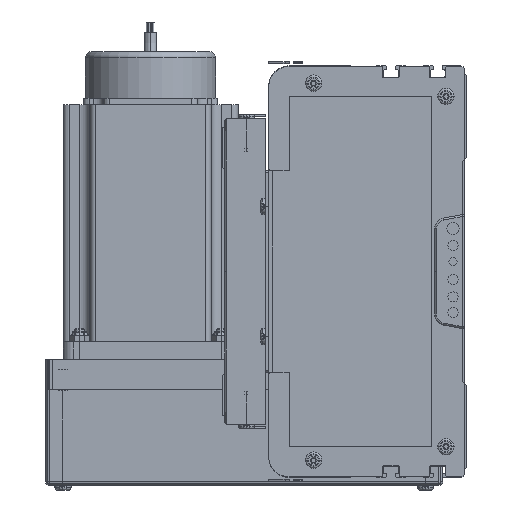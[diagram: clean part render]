
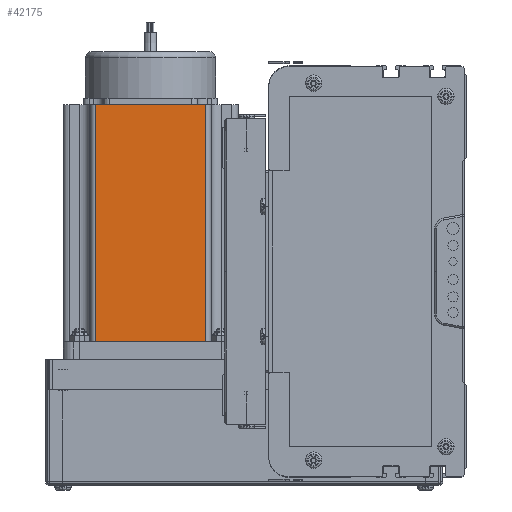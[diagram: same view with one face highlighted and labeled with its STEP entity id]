
A CAD part, left-side view. The second image highlights one B-rep face of the part: STEP entity #42175.
In plain terms, the highlighted planar face has unit normal (-1, 0, 0) as drawn and (0, -1, 0) by its records, which use the part's own axes.
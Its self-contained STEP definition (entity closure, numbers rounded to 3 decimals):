
#41703 = VERTEX_POINT ( 'NONE', #151840 ) ;
#41711 = EDGE_CURVE ( 'NONE', #41718, #41703, #152016, .T. ) ;
#41718 = VERTEX_POINT ( 'NONE', #152239 ) ;
#41738 = ORIENTED_EDGE ( 'NONE', *, *, #41711, .T. ) ;
#41786 = EDGE_CURVE ( 'NONE', #41718, #42179, #152489, .T. ) ;
#42175 = ADVANCED_FACE ( 'NONE', ( #153561 ), #153552, .F. ) ;
#42177 = VERTEX_POINT ( 'NONE', #153624 ) ;
#42179 = VERTEX_POINT ( 'NONE', #153620 ) ;
#42181 = ORIENTED_EDGE ( 'NONE', *, *, #42186, .T. ) ;
#42183 = ORIENTED_EDGE ( 'NONE', *, *, #42187, .T. ) ;
#42186 = EDGE_CURVE ( 'NONE', #42177, #42179, #153787, .T. ) ;
#42187 = EDGE_CURVE ( 'NONE', #41703, #42177, #153793, .T. ) ;
#42194 = EDGE_LOOP ( 'NONE', ( #42183, #42181, #42201, #41738 ) ) ;
#42201 = ORIENTED_EDGE ( 'NONE', *, *, #41786, .F. ) ;
#151840 = CARTESIAN_POINT ( 'NONE',  ( 16.16, 0., 0. ) ) ;
#151921 = DIRECTION ( 'NONE',  ( 0., 0., -1. ) ) ;
#151939 = VECTOR ( 'NONE', #151921, 1000. ) ;
#152014 = CARTESIAN_POINT ( 'NONE',  ( 16.16, 0., 116.5 ) ) ;
#152016 = LINE ( 'NONE', #152014, #151939 ) ;
#152239 = CARTESIAN_POINT ( 'NONE',  ( 16.16, 0., 116.5 ) ) ;
#152487 = CARTESIAN_POINT ( 'NONE',  ( 0., 0., 116.5 ) ) ;
#152489 = LINE ( 'NONE', #152487, #152765 ) ;
#152765 = VECTOR ( 'NONE', #152938, 1000. ) ;
#152938 = DIRECTION ( 'NONE',  ( 1., 0., 0. ) ) ;
#153539 = AXIS2_PLACEMENT_3D ( 'NONE', #153665, #153688, #153626 ) ;
#153552 = PLANE ( 'NONE',  #153539 ) ;
#153561 = FACE_OUTER_BOUND ( 'NONE', #42194, .T. ) ;
#153620 = CARTESIAN_POINT ( 'NONE',  ( 69.74, 0., 116.5 ) ) ;
#153624 = CARTESIAN_POINT ( 'NONE',  ( 69.74, 0., 0. ) ) ;
#153626 = DIRECTION ( 'NONE',  ( 0., 0., 1. ) ) ;
#153665 = CARTESIAN_POINT ( 'NONE',  ( 0., 0., 116.5 ) ) ;
#153688 = DIRECTION ( 'NONE',  ( 0., 1., 0. ) ) ;
#153713 = DIRECTION ( 'NONE',  ( 1., 0., 0. ) ) ;
#153760 = VECTOR ( 'NONE', #153713, 1000. ) ;
#153763 = CARTESIAN_POINT ( 'NONE',  ( 0., 0., 0. ) ) ;
#153766 = DIRECTION ( 'NONE',  ( 0., 0., 1. ) ) ;
#153767 = VECTOR ( 'NONE', #153766, 1000. ) ;
#153768 = CARTESIAN_POINT ( 'NONE',  ( 69.74, 0., 116.5 ) ) ;
#153787 = LINE ( 'NONE', #153768, #153767 ) ;
#153793 = LINE ( 'NONE', #153763, #153760 ) ;
